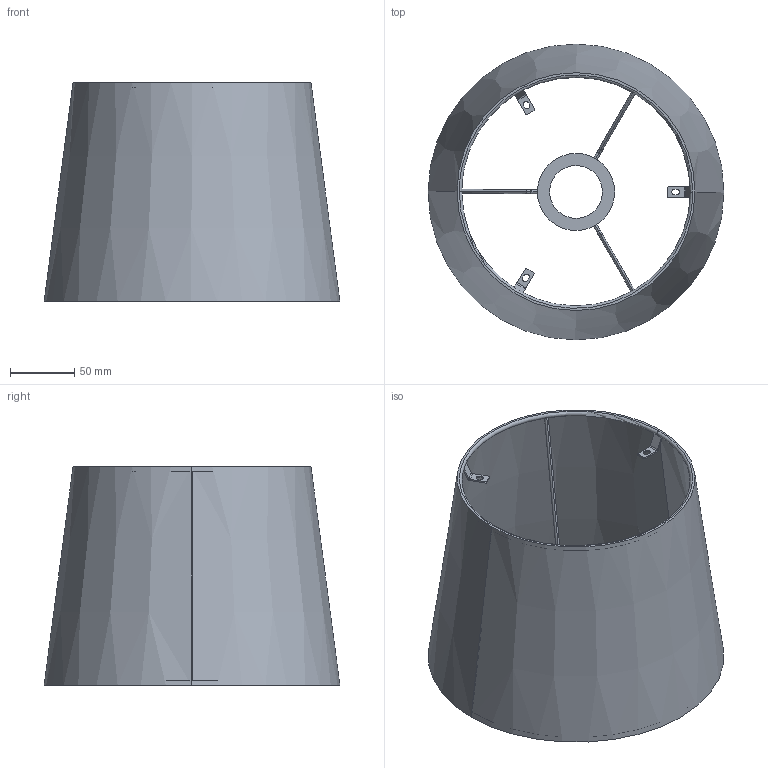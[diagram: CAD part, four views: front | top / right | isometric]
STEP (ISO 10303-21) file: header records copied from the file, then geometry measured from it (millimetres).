
FILE_DESCRIPTION(/* description */ (''),/* implementation_level */ '2;1');
FILE_NAME(/* name */ 'C:\Users\francosartori\Documents\Modelos\01_Indoor\1_SAVOY\03_Publicación\20310_20311_20312\20310.stp',/* time_stamp */ '2020-05-21T09:47:37+02:00',/* author */ ('FrancoSartori'),/* organization */ (''),/* preprocessor_version */ 'ST-DEVELOPER v18.1',/* originating_system */ 'AutoCAD Mechanical',/* authorisation */ '');
FILE_SCHEMA (('AUTOMOTIVE_DESIGN { 1 0 10303 214 3 1 1 }'));
Length unit declared in the file: millimetre
Products named in the file (2): Product; 20310_20311_20312_SAVOY - Shade-434958-_3D_
Assembly tree (1 placements, depth 2):
  Product
    20310_20311_20312_SAVOY - Shade-434958-_3D_
Bounding box: 230 x 230 x 170 mm (x, y, z)
Volume: 106828 mm3; surface area: 450972.6 mm2
Topology: 2 solids, 3 shells, 78 faces, 226 edges, 144 vertices
Faces by surface type: plane 32, cylinder 28, torus 10, cone 8
Entity records: 3740 total; most frequent: CARTESIAN_POINT 1726, ORIENTED_EDGE 404, DIRECTION 378, EDGE_CURVE 226, VERTEX_POINT 144, AXIS2_PLACEMENT_3D 136, LINE 106, VECTOR 106
